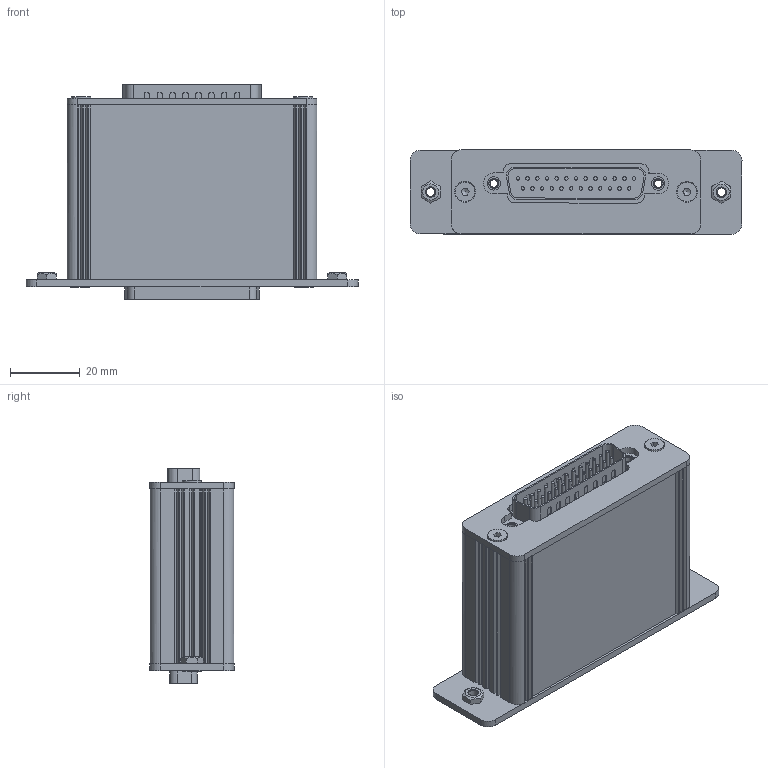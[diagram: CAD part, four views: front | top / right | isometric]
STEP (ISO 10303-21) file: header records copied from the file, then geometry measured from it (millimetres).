
FILE_DESCRIPTION((''),'2;1');
FILE_NAME('E:\CAD\Inventor\Shutter Control Unit\Arbeitsbereich\Feedtrough-Box\Feedtrought-Box Dummy.stp','2019-05-13T18:31:55',('M.Polder'),('Bonn-Shutter UG'),'Autodesk Inventor 2012','Autodesk Inventor 2012','');
FILE_SCHEMA(('AUTOMOTIVE_DESIGN { 1 0 10303 214 1 1 1 1 }'));
Length unit declared in the file: millimetre
Products named in the file (1): Feedtrought-Box Dummy
Bounding box: 95.01 x 24.06 x 61.4 mm (x, y, z)
Volume: 88140.3 mm3; surface area: 19510.1 mm2
Topology: 1 solids, 7 shells, 586 faces, 1462 edges, 973 vertices
Faces by surface type: plane 333, cylinder 194, cone 59
Full cylindrical faces by diameter (mm): 1 x50, 2.156 x2, 2.459 x2, 3 x4, 3.2 x4, 3.8 x4, 4.5 x2, 5.54 x4
Entity records: 16824 total; most frequent: CARTESIAN_POINT 2859, DIRECTION 2858, ORIENTED_EDGE 2522, EDGE_CURVE 1261, AXIS2_PLACEMENT_3D 1070, VERTEX_POINT 891, EDGE_LOOP 804, VECTOR 718
